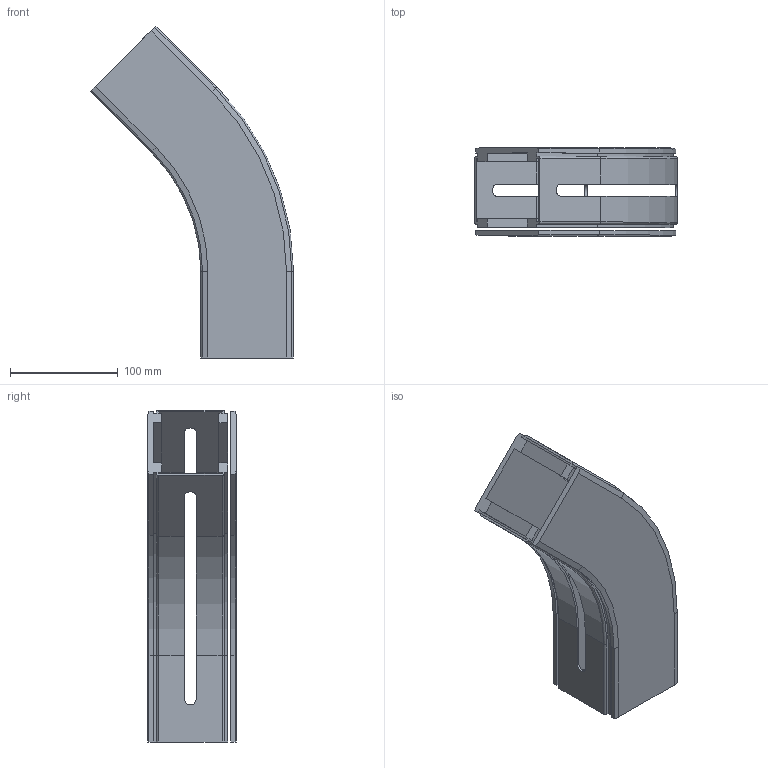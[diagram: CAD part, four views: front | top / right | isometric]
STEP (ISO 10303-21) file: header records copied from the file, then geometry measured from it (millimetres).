
FILE_DESCRIPTION((''),'2;1');
FILE_NAME('C:\Vault Klient\Projekt\Koncept konstruktion\Serie 530 Balk\530-5150.stp','2010-12-01T07:37:51',('Mathias'),(''),'Autodesk Inventor 2011','Autodesk Inventor 2011','');
FILE_SCHEMA(('AUTOMOTIVE_DESIGN { 1 0 10303 214 1 1 1 1 }'));
Length unit declared in the file: millimetre
Products named in the file (1): 530-5150
Bounding box: 188.55 x 82 x 308.4 mm (x, y, z)
Volume: 459342.1 mm3; surface area: 221704.1 mm2
Topology: 2 solids, 2 shells, 155 faces, 434 edges, 284 vertices
Faces by surface type: plane 97, cylinder 36, bspline 14, torus 4, cone 4
Entity records: 5130 total; most frequent: CARTESIAN_POINT 1068, ORIENTED_EDGE 868, DIRECTION 770, EDGE_CURVE 434, VECTOR 326, LINE 326, VERTEX_POINT 284, AXIS2_PLACEMENT_3D 222
